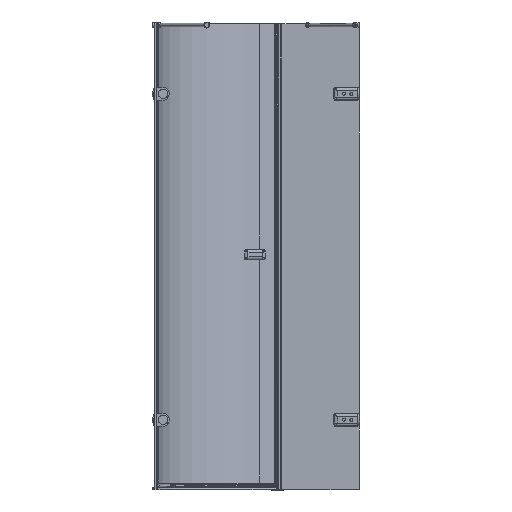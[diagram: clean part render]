
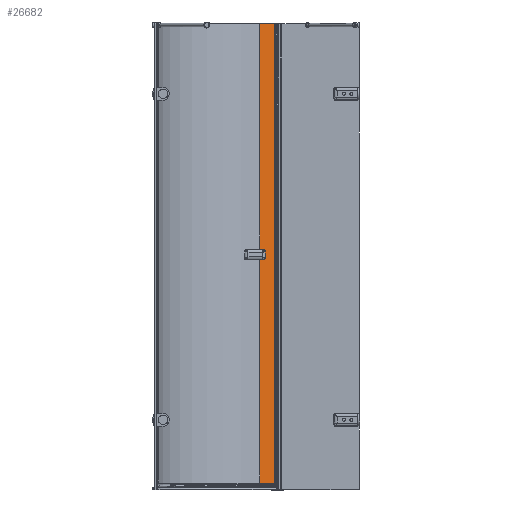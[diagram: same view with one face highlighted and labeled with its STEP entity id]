
A CAD part, left-side view. The second image highlights one B-rep face of the part: STEP entity #26682.
In plain terms, the highlighted planar face has unit normal (-0.99, -0.145, 0).
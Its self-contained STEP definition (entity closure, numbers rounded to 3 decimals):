
#2104=LINE($,#61337,#4152);
#2252=LINE($,#62200,#4300);
#2273=LINE($,#62316,#4321);
#2349=LINE($,#62688,#4397);
#2350=LINE($,#62691,#4398);
#2351=LINE($,#62714,#4399);
#2352=LINE($,#62736,#4400);
#2366=LINE($,#62798,#4414);
#4152=VECTOR($,#34590,70.);
#4300=VECTOR($,#35136,1.213);
#4321=VECTOR($,#35209,70.);
#4397=VECTOR($,#35587,3.387);
#4398=VECTOR($,#35590,965.9);
#4399=VECTOR($,#35591,17.);
#4400=VECTOR($,#35592,970.5);
#4414=VECTOR($,#35628,1980.);
#6953=FACE_OUTER_BOUND($,#8589,.T.);
#8589=EDGE_LOOP($,(#22748,#22749,#22750,#22751,#22752,#22753,#22754,#22755,
#22756,#22757));
#9708=CIRCLE($,#29127,5.5);
#9709=CIRCLE($,#29128,5.5);
#11723=VERTEX_POINT($,#61334);
#11724=VERTEX_POINT($,#61336);
#11898=VERTEX_POINT($,#62198);
#11899=VERTEX_POINT($,#62199);
#11925=VERTEX_POINT($,#62314);
#11926=VERTEX_POINT($,#62315);
#12006=VERTEX_POINT($,#62690);
#12007=VERTEX_POINT($,#62692);
#12008=VERTEX_POINT($,#62713);
#12009=VERTEX_POINT($,#62715);
#15049=EDGE_CURVE($,#11724,#11723,#2104,.T.);
#15327=EDGE_CURVE($,#11898,#11899,#2252,.T.);
#15367=EDGE_CURVE($,#11925,#11926,#2273,.T.);
#15527=EDGE_CURVE($,#11925,#11898,#2349,.T.);
#15528=EDGE_CURVE($,#11899,#12006,#2350,.T.);
#15530=EDGE_CURVE($,#12007,#12008,#2351,.T.);
#15532=EDGE_CURVE($,#12009,#11723,#2352,.T.);
#15555=EDGE_CURVE($,#11926,#11724,#2366,.T.);
#15640=EDGE_CURVE($,#12008,#12009,#9708,.T.);
#15641=EDGE_CURVE($,#12006,#12007,#9709,.T.);
#22748=ORIENTED_EDGE($,*,*,#15532,.F.);
#22749=ORIENTED_EDGE($,*,*,#15640,.F.);
#22750=ORIENTED_EDGE($,*,*,#15530,.F.);
#22751=ORIENTED_EDGE($,*,*,#15641,.F.);
#22752=ORIENTED_EDGE($,*,*,#15528,.F.);
#22753=ORIENTED_EDGE($,*,*,#15327,.F.);
#22754=ORIENTED_EDGE($,*,*,#15527,.F.);
#22755=ORIENTED_EDGE($,*,*,#15367,.T.);
#22756=ORIENTED_EDGE($,*,*,#15555,.T.);
#22757=ORIENTED_EDGE($,*,*,#15049,.T.);
#23936=PLANE($,#29126);
#26682=ADVANCED_FACE($,(#6953),#23936,.F.);
#29126=AXIS2_PLACEMENT_3D($,#63980,#35871,#35872);
#29127=AXIS2_PLACEMENT_3D($,#63981,#35873,#35874);
#29128=AXIS2_PLACEMENT_3D($,#63982,#35875,#35876);
#34590=DIRECTION($,(-0.145,0.989,0.));
#35136=DIRECTION($,(0.,0.,1.));
#35209=DIRECTION($,(0.145,-0.989,0.));
#35587=DIRECTION($,(0.,0.,1.));
#35590=DIRECTION($,(0.,0.,1.));
#35591=DIRECTION($,(0.,0.,1.));
#35592=DIRECTION($,(0.,0.,1.));
#35628=DIRECTION($,(0.,0.,1.));
#35871=DIRECTION('center_axis',(0.989,0.145,0.));
#35872=DIRECTION('ref_axis',(0.,0.,
1.));
#35873=DIRECTION('center_axis',(-0.989,-0.145,0.));
#35874=DIRECTION('ref_axis',(-0.145,0.989,0.));
#35875=DIRECTION('center_axis',(-0.989,-0.145,0.));
#35876=DIRECTION('ref_axis',(-0.145,0.989,0.));
#61334=CARTESIAN_POINT('',(1315.267,-584.403,1485.944));
#61336=CARTESIAN_POINT('',(1325.388,-653.667,1485.944));
#61337=CARTESIAN_POINT($,(1208.083,149.065,1485.944));
#62198=CARTESIAN_POINT('',(1315.267,-584.403,-490.668));
#62199=CARTESIAN_POINT('',(1315.267,-584.403,-489.456));
#62200=CARTESIAN_POINT($,(1315.267,-584.403,0.944));
#62314=CARTESIAN_POINT('',(1315.267,-584.403,-494.056));
#62315=CARTESIAN_POINT('',(1325.388,-653.667,-494.056));
#62316=CARTESIAN_POINT($,(1325.388,-653.667,-494.056));
#62688=CARTESIAN_POINT($,(1315.267,-584.403,0.944));
#62690=CARTESIAN_POINT('',(1315.267,-584.403,476.444));
#62691=CARTESIAN_POINT($,(1315.267,-584.403,0.944));
#62692=CARTESIAN_POINT('',(1315.267,-584.403,487.444));
#62713=CARTESIAN_POINT('',(1315.267,-584.403,504.444));
#62714=CARTESIAN_POINT($,(1315.267,-584.403,491.694));
#62715=CARTESIAN_POINT('',(1315.267,-584.403,515.444));
#62736=CARTESIAN_POINT($,(1315.267,-584.403,505.694));
#62798=CARTESIAN_POINT($,(1325.388,-653.667,1485.944));
#63980=CARTESIAN_POINT('Origin',(1266.736,-252.301,495.944));
#63981=CARTESIAN_POINT('Origin',(1315.267,-584.403,509.944));
#63982=CARTESIAN_POINT('Origin',(1315.267,-584.403,481.944));
